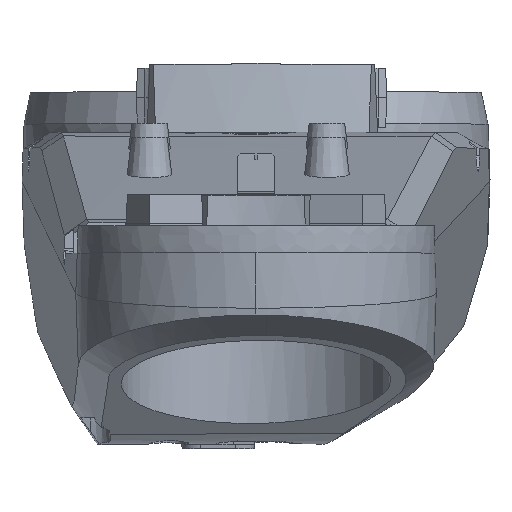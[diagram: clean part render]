
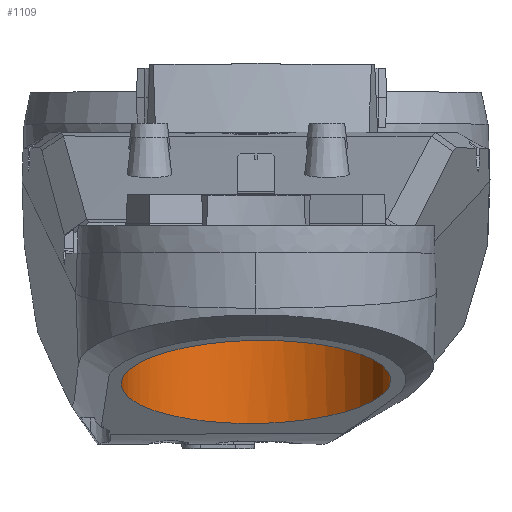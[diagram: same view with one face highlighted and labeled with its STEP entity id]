
A CAD part, top view. The second image highlights one B-rep face of the part: STEP entity #1109.
In plain terms, the highlighted cylindrical face has radius 114 mm (diameter 228 mm), a partial arc.
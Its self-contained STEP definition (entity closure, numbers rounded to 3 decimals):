
#123 = VERTEX_POINT ( 'NONE', #9960 ) ;
#297 = CARTESIAN_POINT ( 'NONE',  ( 434., -331.359, 1790. ) ) ;
#1109 = ADVANCED_FACE ( 'NONE', ( #19335 ), #10556, .F. ) ;
#1906 = ORIENTED_EDGE ( 'NONE', *, *, #14533, .F. ) ;
#2573 = ORIENTED_EDGE ( 'NONE', *, *, #18257, .F. ) ;
#3137 = DIRECTION ( 'NONE',  ( 0., 1., 0. ) ) ;
#3599 = EDGE_CURVE ( 'NONE', #123, #16014, #17080, .T. ) ;
#3602 = CARTESIAN_POINT ( 'NONE',  ( 206., -255.5, 1790. ) ) ;
#4803 = ORIENTED_EDGE ( 'NONE', *, *, #15737, .F. ) ;
#4971 = LINE ( 'NONE', #8635, #11565 ) ;
#5165 = DIRECTION ( 'NONE',  ( 0., 1., 0. ) ) ;
#5340 = CARTESIAN_POINT ( 'NONE',  ( 434., -460.5, 1790. ) ) ;
#6877 = CARTESIAN_POINT ( 'NONE',  ( 434., -401.12, 1562. ) ) ;
#7434 = DIRECTION ( 'NONE',  ( 1., 0., 0. ) ) ;
#7718 = AXIS2_PLACEMENT_3D ( 'NONE', #12297, #5165, #17366 ) ;
#8635 = CARTESIAN_POINT ( 'NONE',  ( 206., -460.5, 1790. ) ) ;
#9543 = ORIENTED_EDGE ( 'NONE', *, *, #3599, .T. ) ;
#9960 = CARTESIAN_POINT ( 'NONE',  ( 434., -331.359, 1790. ) ) ;
#10380 = EDGE_LOOP ( 'NONE', ( #1906, #9543, #4803, #2573 ) ) ;
#10556 = CYLINDRICAL_SURFACE ( 'NONE', #7718, 114. ) ;
#11565 = VECTOR ( 'NONE', #3137, 1000. ) ;
#12234 = CIRCLE ( 'NONE', #22551, 114. ) ;
#12297 = CARTESIAN_POINT ( 'NONE',  ( 320., -460.5, 1790. ) ) ;
#14358 = CARTESIAN_POINT ( 'NONE',  ( 206., -404.253, 1562. ) ) ;
#14533 = EDGE_CURVE ( 'NONE', #123, #22288, #19809, .T. ) ;
#14784 = VERTEX_POINT ( 'NONE', #3602 ) ;
#15467 = DIRECTION ( 'NONE',  ( 0., 1., 0. ) ) ;
#15503 = VECTOR ( 'NONE', #15467, 1000. ) ;
#15737 = EDGE_CURVE ( 'NONE', #14784, #16014, #12234, .T. ) ;
#16014 = VERTEX_POINT ( 'NONE', #18617 ) ;
#17080 = LINE ( 'NONE', #5340, #15503 ) ;
#17366 = DIRECTION ( 'NONE',  ( -1., 0., 0. ) ) ;
#17701 = CARTESIAN_POINT ( 'NONE',  ( 206., -334.492, 1790. ) ) ;
#17822 = DIRECTION ( 'NONE',  ( 0., -1., 0. ) ) ;
#18257 = EDGE_CURVE ( 'NONE', #22288, #14784, #4971, .T. ) ;
#18617 = CARTESIAN_POINT ( 'NONE',  ( 434., -255.5, 1790. ) ) ;
#19335 = FACE_OUTER_BOUND ( 'NONE', #10380, .T. ) ;
#19809 =( BOUNDED_CURVE ( )  B_SPLINE_CURVE ( 3, ( #297, #6877, #14358, #17701 ),
 .UNSPECIFIED., .F., .T. ) 
 B_SPLINE_CURVE_WITH_KNOTS ( ( 4, 4 ),
 ( 1.526, 4.668 ),
 .UNSPECIFIED. ) 
 CURVE ( )  GEOMETRIC_REPRESENTATION_ITEM ( )  RATIONAL_B_SPLINE_CURVE ( ( 1., 0.333, 0.333, 1. ) ) 
 REPRESENTATION_ITEM ( '' )  );
#21375 = CARTESIAN_POINT ( 'NONE',  ( 320., -255.5, 1790. ) ) ;
#22288 = VERTEX_POINT ( 'NONE', #22563 ) ;
#22551 = AXIS2_PLACEMENT_3D ( 'NONE', #21375, #17822, #7434 ) ;
#22563 = CARTESIAN_POINT ( 'NONE',  ( 206., -334.492, 1790. ) ) ;
